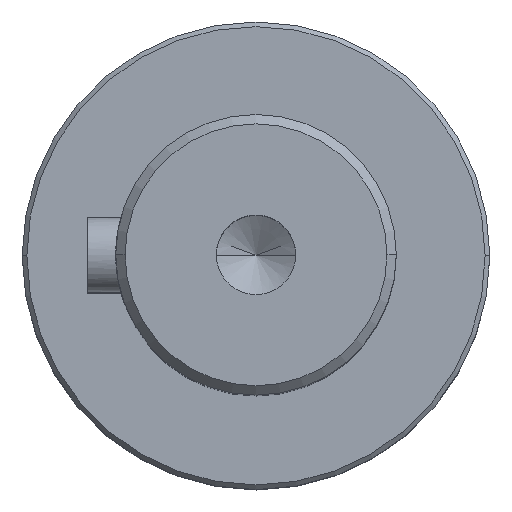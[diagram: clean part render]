
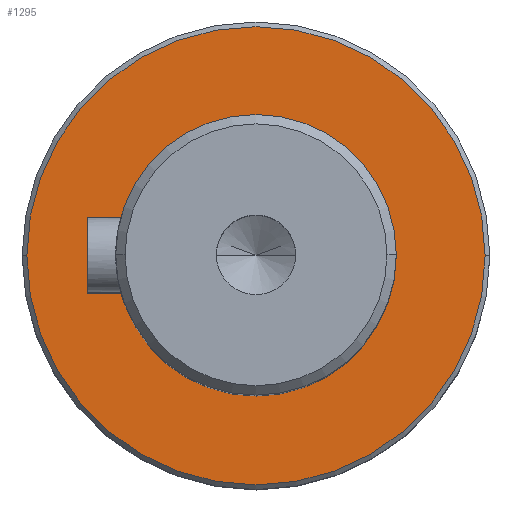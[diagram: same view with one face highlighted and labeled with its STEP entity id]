
A CAD part, top view. The second image highlights one B-rep face of the part: STEP entity #1295.
In plain terms, the highlighted planar face has unit normal (0, 0, 1).
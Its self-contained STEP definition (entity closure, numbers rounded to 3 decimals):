
#363=CARTESIAN_POINT('',(0.,0.,
25.));
#364=DIRECTION('',(0.,0.,-1.));
#365=DIRECTION('',(-1.,0.,0.));
#366=AXIS2_PLACEMENT_3D('',#363,#364,#365);
#368=CARTESIAN_POINT('',(0.,0.,
25.));
#369=DIRECTION('',(0.,0.,-1.));
#370=DIRECTION('',(0.,1.,0.));
#371=AXIS2_PLACEMENT_3D('',#368,#369,#370);
#373=CARTESIAN_POINT('',(0.,0.,
25.));
#374=DIRECTION('',(0.,0.,-1.));
#375=DIRECTION('',(1.,0.,0.));
#376=AXIS2_PLACEMENT_3D('',#373,#374,#375);
#378=CARTESIAN_POINT('',(0.,0.,
25.));
#379=DIRECTION('',(0.,0.,-1.));
#380=DIRECTION('',(0.,-1.,0.));
#381=AXIS2_PLACEMENT_3D('',#378,#379,#380);
#383=CARTESIAN_POINT('',(0.,0.,25.));
#384=DIRECTION('',(0.,0.,1.));
#385=DIRECTION('',(-1.,0.,0.));
#386=AXIS2_PLACEMENT_3D('',#383,#384,#385);
#388=CARTESIAN_POINT('',(0.,0.,25.));
#389=DIRECTION('',(0.,0.,1.));
#390=DIRECTION('',(1.,0.,0.));
#391=AXIS2_PLACEMENT_3D('',#388,#389,#390);
#673=CARTESIAN_POINT('',(-15.,0.,25.));
#674=VERTEX_POINT('',#673);
#675=CARTESIAN_POINT('',(15.,0.,25.));
#676=VERTEX_POINT('',#675);
#709=CARTESIAN_POINT('',(0.,24.5,25.));
#710=CARTESIAN_POINT('',(24.5,0.,25.));
#711=VERTEX_POINT('',#709);
#712=VERTEX_POINT('',#710);
#713=CARTESIAN_POINT('',(-24.5,0.,
25.));
#714=VERTEX_POINT('',#713);
#715=CARTESIAN_POINT('',(0.,-24.5,
25.));
#716=VERTEX_POINT('',#715);
#1276=CARTESIAN_POINT('',(0.,0.,25.));
#1277=DIRECTION('',(0.,0.,-1.));
#1278=DIRECTION('',(1.,0.,0.));
#1279=AXIS2_PLACEMENT_3D('',#1276,#1277,#1278);
#1280=PLANE('',#1279);
#1281=ORIENTED_EDGE('',*,*,#1265,.T.);
#1282=ORIENTED_EDGE('',*,*,#1263,.T.);
#1284=ORIENTED_EDGE('',*,*,#1283,.T.);
#1286=ORIENTED_EDGE('',*,*,#1285,.T.);
#1287=EDGE_LOOP('',(#1281,#1282,#1284,#1286));
#1288=FACE_OUTER_BOUND('',#1287,.F.);
#1290=ORIENTED_EDGE('',*,*,#1289,.T.);
#1292=ORIENTED_EDGE('',*,*,#1291,.T.);
#1293=EDGE_LOOP('',(#1290,#1292));
#1294=FACE_BOUND('',#1293,.F.);
#1295=ADVANCED_FACE('',(#1288,#1294),#1280,.F.);
#367=CIRCLE('',#366,24.5);
#372=CIRCLE('',#371,24.5);
#377=CIRCLE('',#376,24.5);
#382=CIRCLE('',#381,24.5);
#387=CIRCLE('',#386,15.);
#392=CIRCLE('',#391,15.);
#1263=EDGE_CURVE('',#711,#712,#372,.T.);
#1265=EDGE_CURVE('',#714,#711,#367,.T.);
#1283=EDGE_CURVE('',#712,#716,#377,.T.);
#1285=EDGE_CURVE('',#716,#714,#382,.T.);
#1289=EDGE_CURVE('',#674,#676,#387,.T.);
#1291=EDGE_CURVE('',#676,#674,#392,.T.);
